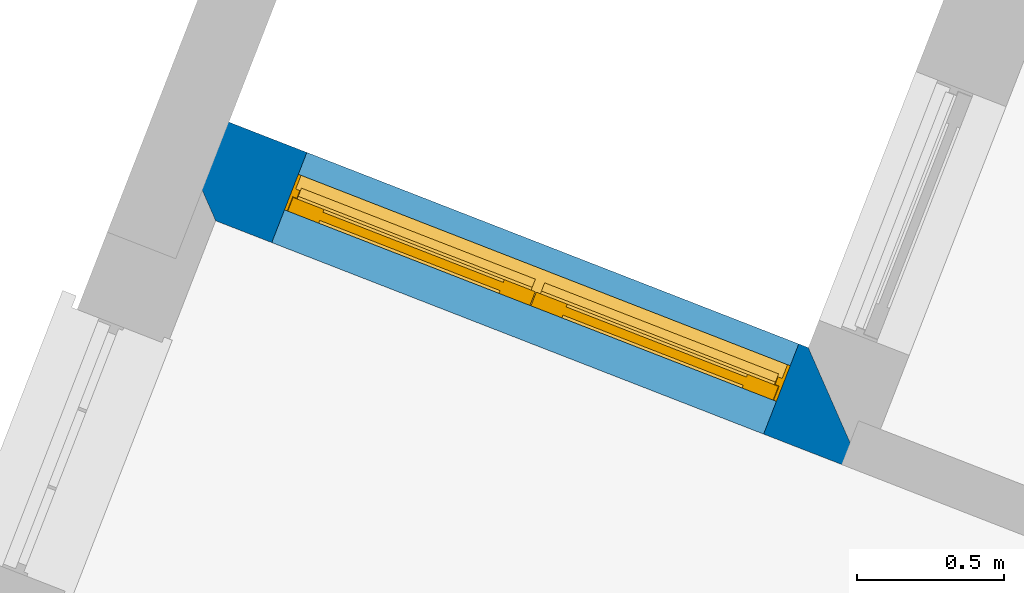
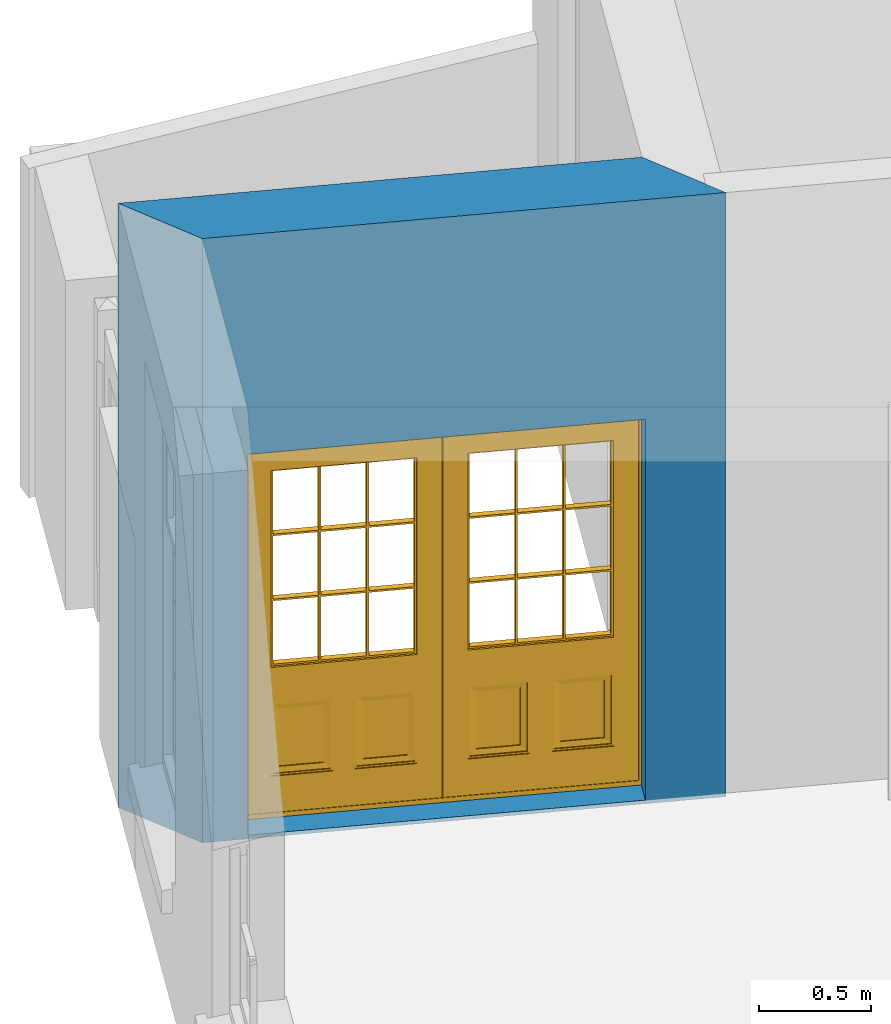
# One storey, part 4 of 6: 1 door, 1 wall, 1 opening.
"""IFC4 building model written with IfcOpenShell, lengths in metres."""

from ifc_helpers import new_model, si_unit, frame, origin, origin_with_axes, place, context, subcontext, project, spatial, polyline, outline, extrude, faceted_brep, source, transform, mapped, material, layer, layer_set, layer_usage, type_object, type_shapes, element, fill, save


model = new_model("IFC4")

# Units and contexts
model_context = context("Model", 3, world=origin_with_axes())
body_context = subcontext(model_context, "Body", "Model", "MODEL_VIEW")
ifc_project = project(units=[si_unit("PLANEANGLEUNIT", "RADIAN"), si_unit("MASSUNIT", "GRAM", prefix="KILO"), si_unit("FORCEUNIT", "NEWTON", prefix="KILO"), si_unit("LENGTHUNIT", "METRE"), si_unit("AREAUNIT", "SQUARE_METRE"), si_unit("VOLUMEUNIT", "CUBIC_METRE")], contexts=[model_context, model_context])

# Sites, building, storey
site_1_placement = place(None, origin_with_axes())
site_1 = spatial("IfcSite", under=ifc_project, at=site_1_placement, Name="Tamar")
site_2_placement = place(site_1_placement, origin_with_axes())
site_2 = spatial("IfcSite", under=site_1, at=site_2_placement, Name="Site plot-9", CompositionType="ELEMENT")
building_placement = place(None, origin_with_axes())
building = spatial("IfcBuilding", under=site_2, at=building_placement, Name="Building plot-9", CompositionType="ELEMENT")
storey_placement = place(None, frame((0.0, 0.0, 26.8), z_axis=(0.0, 0.0, 1.0), x_axis=(1.0, 0.0, 0.0)))
storey = spatial("IfcBuildingStorey", under=building, at=storey_placement, Name="plot-9 0", CompositionType="ELEMENT", Elevation=26.8)

# Wall, opening, door
ifc_material = material(Name="Masonry")
ifc_layer = layer(ifc_material, 0.33, ventilated=False)
ifc_layer_set = layer_set([ifc_layer], Name="exterior_0.08_0.25")
ifc_layer_usage = layer_usage(ifc_layer_set, "AXIS2", "POSITIVE", -0.25)
wall_type = type_object("IfcWallType", Name="exterior_0.08_0.25", PredefinedType="SOLIDWALL", material=ifc_layer_set)
wall_placement = place(storey_placement, frame((228.059238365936, 320.034964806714, 0.0), z_axis=(0.0, 0.0, 1.0), x_axis=(-0.931863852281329, 0.362808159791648, 0.0)))
wall = element("IfcWall", 1, at=wall_placement, inside=storey, type_object=wall_type, material=ifc_layer_usage, Name="exterior", context=body_context, shape_type="SweptSolid", body=[
    extrude(outline(polyline([(-0.080000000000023, 0.0800000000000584), (0.250000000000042, -0.249999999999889), (2.62048137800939, -0.250000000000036), (2.29048137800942, 0.0800000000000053), (-0.080000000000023, 0.0800000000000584)])), origin_with_axes(), (0.0, 0.0, 1.0), 3.3),
])
opening_placement = place(wall_placement, frame((0.285240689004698, 0.0, 0.0199999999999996)))
opening = element("IfcOpeningElement", 2, at=opening_placement, cuts=wall, Name="My Opening", ObjectType="Opening", context=body_context, shape_type="SweptSolid", body=[
    extrude(outline(polyline([(0.0, -0.269999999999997), (1.80000000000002, -0.270000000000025), (1.80000000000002, 1.09999999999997), (4.44089209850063e-16, 1.1), (0.0, -0.269999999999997)])), origin_with_axes(), (0.0, 0.0, 1.0), 2.08),
])
door_type = type_object("IfcDoorType", Name="door_panelled_double", OperationType="SINGLE_SWING_LEFT", PredefinedType="NOTDEFINED")
shared_shape = source(origin(), body_context, "Body", "Brep", [
    faceted_brep([(0.545, 0.195, 0.265), (0.745, 0.195, 0.265), (0.745, 0.2, 0.265), (0.545, 0.2, 0.265), (0.745, 0.2, 0.58), (0.545, 0.2, 0.58), (0.545, 0.195, 0.58), (0.515, 0.19, 0.235), (0.775, 0.19, 0.235), (0.745, 0.195, 0.58), (0.515, 0.19, 0.61), (0.515, 0.185, 0.235), (0.775, 0.185, 0.235), (0.775, 0.19, 0.61), (0.515, 0.185, 0.61), (0.785, 0.185, 0.225), (0.505, 0.185, 0.225), (0.775, 0.185, 0.61), (0.505, 0.185, 0.62), (0.785, 0.185, 0.62), (0.505, 0.18, 0.225), (0.785, 0.18, 0.225), (0.505, 0.18, 0.62), (0.785, 0.18, 0.62), (0.883, 0.18, 0.075), (0.898, 0.18, 0.075), (0.405, 0.18, 0.62), (0.405, 0.18, 0.225), (0.027, 0.18, 0.075), (0.785, 0.18, 0.82), (0.125, 0.18, 0.82), (0.405, 0.185, 0.62), (0.405, 0.185, 0.225), (0.898, 0.18, 2.068), (0.027, 0.17, 0.075), (0.883, 0.17, 0.075), (0.125, 0.18, 0.225), (0.012, 0.18, 0.075), (0.785, 0.19, 0.82), (0.125, 0.19, 0.82), (0.125, 0.18, 0.62), (0.125, 0.185, 0.62), (0.395, 0.185, 0.61), (0.395, 0.185, 0.235), (0.125, 0.185, 0.225), (0.785, 0.18, 1.895), (0.027, 0.14, 0.045), (0.883, 0.14, 0.045), (0.558333, 0.19, 0.83), (0.351667, 0.19, 0.83), (0.125, 0.18, 1.895), (0.125, 0.19, 1.895), (0.785, 0.19, 1.895), (0.012, 0.18, 2.068), (0.135, 0.185, 0.61), (0.395, 0.19, 0.61), (0.395, 0.19, 0.235), (0.135, 0.185, 0.235), (0.027, 0.14, 0.027), (0.883, 0.14, 0.027), (0.568333, 0.19, 0.83), (0.558333, 0.22, 0.83), (0.351667, 0.22, 0.83), (0.341667, 0.19, 0.83), (0.135, 0.19, 1.185), (0.135, 0.19, 1.53), (0.775, 0.19, 1.53), (0.775, 0.19, 1.185), (0.135, 0.19, 0.61), (0.365, 0.195, 0.58), (0.365, 0.195, 0.265), (0.135, 0.19, 0.235), (0.568333, 0.19, 1.175), (0.558333, 0.19, 1.175), (0.775, 0.19, 0.83), (0.558333, 0.22, 1.175), (0.785, 0.22, 0.82), (0.125, 0.22, 0.82), (0.351667, 0.22, 1.175), (0.351667, 0.19, 1.175), (0.341667, 0.19, 1.175), (0.135, 0.19, 0.83), (0.135, 0.19, 1.175), (0.135, 0.22, 1.185), (0.135, 0.22, 1.53), (0.135, 0.19, 1.54), (0.351667, 0.19, 1.885), (0.558333, 0.19, 1.885), (0.775, 0.22, 1.53), (0.775, 0.22, 1.185), (0.775, 0.19, 1.175), (0.775, 0.19, 1.54), (0.165, 0.195, 0.58), (0.365, 0.2, 0.58), (0.365, 0.2, 0.265), (0.165, 0.195, 0.265), (0.568333, 0.22, 0.83), (0.568333, 0.22, 1.175), (0.568333, 0.19, 1.185), (0.558333, 0.19, 1.185), (0.775, 0.22, 0.83), (0.785, 0.23, 0.82), (0.125, 0.23, 0.82), (0.341667, 0.22, 0.83), (0.341667, 0.22, 1.175), (0.351667, 0.19, 1.185), (0.341667, 0.19, 1.185), (0.135, 0.22, 0.83), (0.341667, 0.22, 1.185), (0.125, 0.22, 1.895), (0.341667, 0.22, 1.53), (0.341667, 0.19, 1.53), (0.135, 0.19, 1.885), (0.341667, 0.19, 1.54), (0.341667, 0.19, 1.885), (0.558333, 0.22, 1.885), (0.351667, 0.22, 1.885), (0.568333, 0.19, 1.885), (0.785, 0.22, 1.895), (0.568333, 0.22, 1.185), (0.568333, 0.19, 1.53), (0.568333, 0.22, 1.53), (0.568333, 0.19, 1.54), (0.775, 0.19, 1.885), (0.165, 0.2, 0.58), (0.165, 0.2, 0.265), (0.775, 0.22, 1.175), (0.558333, 0.19, 1.53), (0.351667, 0.22, 1.185), (0.558333, 0.22, 1.185), (0.505, 0.23, 0.62), (0.405, 0.23, 0.62), (0.125, 0.23, 1.895), (0.785, 0.23, 1.895), (0.351667, 0.19, 1.53), (0.135, 0.22, 1.175), (0.135, 0.22, 1.54), (0.341667, 0.22, 1.54), (0.135, 0.22, 1.885), (0.351667, 0.19, 1.54), (0.558333, 0.22, 1.54), (0.558333, 0.19, 1.54), (0.351667, 0.22, 1.54), (0.775, 0.22, 1.54), (0.568333, 0.22, 1.54), (0.775, 0.22, 1.885), (0.558333, 0.22, 1.53), (0.405, 0.23, 0.225), (0.505, 0.23, 0.225), (0.125, 0.23, 0.62), (0.785, 0.23, 0.62), (0.012, 0.23, 2.068), (0.898, 0.23, 2.068), (0.351667, 0.22, 1.53), (0.341667, 0.22, 1.885), (0.568333, 0.22, 1.885), (0.405, 0.225, 0.225), (0.405, 0.225, 0.62), (0.505, 0.225, 0.62), (0.505, 0.225, 0.225), (0.898, 0.23, 0.027), (0.012, 0.23, 0.027), (0.125, 0.225, 0.62), (0.785, 0.225, 0.62), (0.395, 0.225, 0.235), (0.395, 0.225, 0.61), (0.125, 0.23, 0.225), (0.125, 0.225, 0.225), (0.515, 0.225, 0.61), (0.515, 0.225, 0.235), (0.785, 0.23, 0.225), (0.785, 0.225, 0.225), (0.135, 0.225, 0.61), (0.775, 0.225, 0.61), (0.135, 0.225, 0.235), (0.395, 0.22, 0.235), (0.395, 0.22, 0.61), (0.515, 0.22, 0.61), (0.515, 0.22, 0.235), (0.775, 0.225, 0.235), (0.135, 0.22, 0.61), (0.775, 0.22, 0.61), (0.135, 0.22, 0.235), (0.365, 0.215, 0.265), (0.365, 0.215, 0.58), (0.545, 0.215, 0.58), (0.545, 0.215, 0.265), (0.775, 0.22, 0.235), (0.165, 0.215, 0.58), (0.745, 0.215, 0.58), (0.165, 0.215, 0.265), (0.365, 0.21, 0.58), (0.365, 0.21, 0.265), (0.545, 0.21, 0.58), (0.545, 0.21, 0.265), (0.745, 0.215, 0.265), (0.165, 0.21, 0.58), (0.745, 0.21, 0.58), (0.165, 0.21, 0.265), (0.745, 0.21, 0.265), (1.775, 0.178, 0.025), (0.025, 0.178, 0.025), (0.025, 0.15, 0.025), (1.775, 0.15, 0.025), (1.79, 0.23, 0.025), (0.01, 0.23, 0.025), (1.79, 0.178, 0.025), (1.8, 0.23, 0.0), (0.0, 0.23, 0.0), (0.01, 0.178, 0.025), (1.79, 0.178, 2.07), (1.79, 0.23, 2.07), (1.775, 0.178, 2.055), (1.8, 0.23, 2.08), (0.01, 0.23, 2.07), (0.0, 0.23, 2.08), (0.01, 0.178, 2.07), (0.025, 0.178, 2.055), (0.0, 0.1, 2.08), (1.8, 0.1, 2.08), (0.01, 0.1, 2.07), (1.79, 0.1, 2.07), (0.01, 0.15, 2.07), (1.79, 0.15, 2.07), (0.0, 0.1, 0.0), (1.8, 0.1, 0.0), (0.01, 0.1, 0.025), (1.79, 0.1, 0.025), (0.01, 0.15, 0.025), (0.025, 0.15, 2.055), (1.79, 0.15, 0.025), (1.775, 0.15, 2.055), (0.898, 0.18, 0.027), (0.012, 0.18, 0.027), (0.883, 0.18, 0.027), (0.027, 0.18, 0.027), (1.435, 0.195, 0.265), (1.635, 0.195, 0.265), (1.635, 0.2, 0.265), (1.435, 0.2, 0.265), (1.635, 0.2, 0.58), (1.435, 0.2, 0.58), (1.435, 0.195, 0.58), (1.405, 0.19, 0.235), (1.665, 0.19, 0.235), (1.635, 0.195, 0.58), (1.405, 0.19, 0.61), (1.405, 0.185, 0.235), (1.665, 0.185, 0.235), (1.665, 0.19, 0.61), (1.405, 0.185, 0.61), (1.675, 0.185, 0.225), (1.395, 0.185, 0.225), (1.665, 0.185, 0.61), (1.395, 0.185, 0.62), (1.675, 0.185, 0.62), (1.395, 0.18, 0.225), (1.675, 0.18, 0.225), (1.395, 0.18, 0.62), (1.675, 0.18, 0.62), (1.773, 0.18, 0.075), (1.788, 0.18, 0.075), (1.295, 0.18, 0.62), (1.295, 0.18, 0.225), (0.917, 0.18, 0.075), (1.675, 0.18, 0.82), (1.015, 0.18, 0.82), (1.295, 0.185, 0.62), (1.295, 0.185, 0.225), (1.788, 0.18, 2.068), (0.917, 0.17, 0.075), (1.773, 0.17, 0.075), (1.015, 0.18, 0.225), (0.902, 0.18, 0.075), (1.675, 0.19, 0.82), (1.015, 0.19, 0.82), (1.015, 0.18, 0.62), (1.015, 0.185, 0.62), (1.285, 0.185, 0.61), (1.285, 0.185, 0.235), (1.015, 0.185, 0.225), (1.675, 0.18, 1.895), (0.917, 0.14, 0.045), (1.773, 0.14, 0.045), (1.448333, 0.19, 0.83), (1.241667, 0.19, 0.83), (1.015, 0.18, 1.895), (1.015, 0.19, 1.895), (1.675, 0.19, 1.895), (0.902, 0.18, 2.068), (1.025, 0.185, 0.61), (1.285, 0.19, 0.61), (1.285, 0.19, 0.235), (1.025, 0.185, 0.235), (0.917, 0.14, 0.027), (1.773, 0.14, 0.027), (1.458333, 0.19, 0.83), (1.448333, 0.22, 0.83), (1.241667, 0.22, 0.83), (1.231667, 0.19, 0.83), (1.025, 0.19, 1.185), (1.025, 0.19, 1.53), (1.665, 0.19, 1.53), (1.665, 0.19, 1.185), (1.025, 0.19, 0.61), (1.255, 0.195, 0.58), (1.255, 0.195, 0.265), (1.025, 0.19, 0.235), (1.458333, 0.19, 1.175), (1.448333, 0.19, 1.175), (1.665, 0.19, 0.83), (1.448333, 0.22, 1.175), (1.675, 0.22, 0.82), (1.015, 0.22, 0.82), (1.241667, 0.22, 1.175), (1.241667, 0.19, 1.175), (1.231667, 0.19, 1.175), (1.025, 0.19, 0.83), (1.025, 0.19, 1.175), (1.025, 0.22, 1.185), (1.025, 0.22, 1.53), (1.025, 0.19, 1.54), (1.241667, 0.19, 1.885), (1.448333, 0.19, 1.885), (1.665, 0.22, 1.53), (1.665, 0.22, 1.185), (1.665, 0.19, 1.175), (1.665, 0.19, 1.54), (1.055, 0.195, 0.58), (1.255, 0.2, 0.58), (1.255, 0.2, 0.265), (1.055, 0.195, 0.265), (1.458333, 0.22, 0.83), (1.458333, 0.22, 1.175), (1.458333, 0.19, 1.185), (1.448333, 0.19, 1.185), (1.665, 0.22, 0.83), (1.675, 0.23, 0.82), (1.015, 0.23, 0.82), (1.231667, 0.22, 0.83), (1.231667, 0.22, 1.175), (1.241667, 0.19, 1.185), (1.231667, 0.19, 1.185), (1.025, 0.22, 0.83), (1.231667, 0.22, 1.185), (1.015, 0.22, 1.895), (1.231667, 0.22, 1.53), (1.231667, 0.19, 1.53), (1.025, 0.19, 1.885), (1.231667, 0.19, 1.54), (1.231667, 0.19, 1.885), (1.448333, 0.22, 1.885), (1.241667, 0.22, 1.885), (1.458333, 0.19, 1.885), (1.675, 0.22, 1.895), (1.458333, 0.22, 1.185), (1.458333, 0.19, 1.53), (1.458333, 0.22, 1.53), (1.458333, 0.19, 1.54), (1.665, 0.19, 1.885), (1.055, 0.2, 0.58), (1.055, 0.2, 0.265), (1.665, 0.22, 1.175), (1.448333, 0.19, 1.53), (1.241667, 0.22, 1.185), (1.448333, 0.22, 1.185), (1.395, 0.23, 0.62), (1.295, 0.23, 0.62), (1.015, 0.23, 1.895), (1.675, 0.23, 1.895), (1.241667, 0.19, 1.53), (1.025, 0.22, 1.175), (1.025, 0.22, 1.54), (1.231667, 0.22, 1.54), (1.025, 0.22, 1.885), (1.241667, 0.19, 1.54), (1.448333, 0.22, 1.54), (1.448333, 0.19, 1.54), (1.241667, 0.22, 1.54), (1.665, 0.22, 1.54), (1.458333, 0.22, 1.54), (1.665, 0.22, 1.885), (1.448333, 0.22, 1.53), (1.295, 0.23, 0.225), (1.395, 0.23, 0.225), (1.015, 0.23, 0.62), (1.675, 0.23, 0.62), (0.902, 0.23, 2.068), (1.788, 0.23, 2.068), (1.241667, 0.22, 1.53), (1.231667, 0.22, 1.885), (1.458333, 0.22, 1.885), (1.295, 0.225, 0.225), (1.295, 0.225, 0.62), (1.395, 0.225, 0.62), (1.395, 0.225, 0.225), (1.788, 0.23, 0.027), (0.902, 0.23, 0.027), (1.015, 0.225, 0.62), (1.675, 0.225, 0.62), (1.285, 0.225, 0.235), (1.285, 0.225, 0.61), (1.015, 0.23, 0.225), (1.015, 0.225, 0.225), (1.405, 0.225, 0.61), (1.405, 0.225, 0.235), (1.675, 0.23, 0.225), (1.675, 0.225, 0.225), (1.025, 0.225, 0.61), (1.665, 0.225, 0.61), (1.025, 0.225, 0.235), (1.285, 0.22, 0.235), (1.285, 0.22, 0.61), (1.405, 0.22, 0.61), (1.405, 0.22, 0.235), (1.665, 0.225, 0.235), (1.025, 0.22, 0.61), (1.665, 0.22, 0.61), (1.025, 0.22, 0.235), (1.255, 0.215, 0.265), (1.255, 0.215, 0.58), (1.435, 0.215, 0.58), (1.435, 0.215, 0.265), (1.665, 0.22, 0.235), (1.055, 0.215, 0.58), (1.635, 0.215, 0.58), (1.055, 0.215, 0.265), (1.255, 0.21, 0.58), (1.255, 0.21, 0.265), (1.435, 0.21, 0.58), (1.435, 0.21, 0.265), (1.635, 0.215, 0.265), (1.055, 0.21, 0.58), (1.635, 0.21, 0.58), (1.055, 0.21, 0.265), (1.635, 0.21, 0.265), (1.788, 0.18, 0.027), (0.902, 0.18, 0.027), (1.773, 0.18, 0.027), (0.917, 0.18, 0.027)], [[[0, 1, 2, 3]], [[2, 4, 5, 3]], [[0, 3, 5, 6]], [[1, 0, 7, 8]], [[9, 4, 2, 1]], [[9, 6, 5, 4]], [[0, 6, 10, 7]], [[8, 7, 11, 12]], [[8, 13, 9, 1]], [[13, 10, 6, 9]], [[7, 10, 14, 11]], [[15, 12, 11, 16]], [[12, 17, 13, 8]], [[17, 14, 10, 13]], [[18, 16, 11, 14]], [[15, 19, 17, 12]], [[15, 16, 20, 21]], [[14, 17, 19, 18]], [[16, 18, 22, 20]], [[21, 23, 19, 15]], [[24, 25, 21, 20]], [[23, 22, 18, 19]], [[20, 22, 26, 27]], [[23, 21, 25]], [[28, 24, 20, 27]], [[22, 23, 29]], [[29, 30, 26, 22]], [[27, 26, 31, 32]], [[23, 25, 33, 29]], [[34, 35, 24, 28]], [[28, 27, 36, 37]], [[38, 39, 30, 29]], [[26, 30, 40]], [[26, 40, 41, 31]], [[42, 43, 32, 31]], [[32, 44, 36, 27]], [[33, 45, 29]], [[46, 47, 35, 34]], [[36, 40, 37]], [[39, 38, 48, 49]], [[50, 30, 39, 51]], [[29, 45, 52, 38]], [[53, 37, 40, 30]], [[44, 41, 40, 36]], [[31, 41, 54, 42]], [[43, 42, 55, 56]], [[57, 44, 32, 43]], [[50, 45, 33, 53]], [[47, 46, 58, 59]], [[60, 48, 38]], [[49, 48, 61, 62]], [[49, 63, 39]], [[50, 53, 30]], [[51, 39, 64, 65]], [[45, 50, 51, 52]], [[66, 67, 38, 52]], [[57, 54, 41, 44]], [[42, 54, 68, 55]], [[56, 55, 69, 70]], [[56, 71, 57, 43]], [[60, 72, 73, 48]], [[60, 38, 74]], [[48, 73, 75, 61]], [[76, 77, 62, 61]], [[62, 78, 79, 49]], [[49, 79, 80, 63]], [[63, 81, 39]], [[82, 64, 39]], [[65, 64, 83, 84]], [[85, 51, 65]], [[52, 51, 86, 87]], [[88, 89, 67, 66]], [[90, 38, 67]], [[91, 66, 52]], [[71, 68, 54, 57]], [[55, 68, 92, 69]], [[69, 93, 94, 70]], [[70, 95, 71, 56]], [[96, 97, 72, 60]], [[73, 72, 98, 99]], [[74, 38, 90]], [[100, 96, 60, 74]], [[75, 73, 79, 78]], [[61, 75, 97, 96]], [[101, 102, 77, 76]], [[77, 103, 62]], [[96, 76, 61]], [[103, 104, 78, 62]], [[80, 79, 105, 106]], [[63, 80, 104, 103]], [[81, 63, 103, 107]], [[81, 82, 39]], [[106, 64, 82, 80]], [[106, 108, 83, 64]], [[84, 83, 77, 109]], [[110, 111, 65, 84]], [[112, 51, 85]], [[113, 85, 65, 111]], [[114, 86, 51]], [[115, 87, 86, 116]], [[117, 52, 87]], [[118, 76, 89, 88]], [[119, 98, 67, 89]], [[120, 121, 88, 66]], [[67, 98, 72, 90]], [[91, 122, 120, 66]], [[91, 52, 123]], [[95, 92, 68, 71]], [[69, 92, 124, 93]], [[94, 93, 124, 125]], [[94, 125, 95, 70]], [[72, 97, 126, 90]], [[127, 99, 98, 120]], [[99, 105, 79, 73]], [[74, 90, 126, 100]], [[96, 100, 76]], [[128, 129, 75, 78]], [[97, 75, 129, 119]], [[130, 131, 102, 101]], [[109, 77, 102, 132]], [[133, 101, 76, 118]], [[77, 107, 103]], [[78, 104, 108, 128]], [[111, 106, 105, 134]], [[104, 80, 82, 135]], [[107, 135, 82, 81]], [[110, 108, 106, 111]], [[104, 135, 83, 108]], [[83, 135, 77]], [[136, 84, 109]], [[110, 84, 136, 137]], [[114, 51, 112]], [[85, 136, 138, 112]], [[113, 137, 136, 85]], [[111, 134, 139, 113]], [[86, 114, 113, 139]], [[140, 141, 87, 115]], [[139, 142, 116, 86]], [[109, 118, 115, 116]], [[117, 123, 52]], [[117, 87, 141, 122]], [[126, 89, 76]], [[143, 118, 88]], [[120, 98, 119, 121]], [[119, 89, 126, 97]], [[144, 143, 88, 121]], [[144, 122, 91, 143]], [[127, 120, 122, 141]], [[143, 91, 123, 145]], [[124, 92, 95, 125]], [[146, 129, 99, 127]], [[99, 129, 128, 105]], [[100, 126, 76]], [[121, 119, 129, 146]], [[147, 131, 130, 148]], [[131, 149, 102]], [[130, 101, 150]], [[102, 151, 132]], [[118, 109, 132, 133]], [[101, 133, 152]], [[107, 77, 135]], [[153, 128, 108, 110]], [[134, 105, 128, 153]], [[109, 138, 136]], [[153, 110, 137, 142]], [[154, 114, 112, 138]], [[137, 113, 114, 154]], [[141, 139, 134, 127]], [[141, 140, 142, 139]], [[144, 140, 115, 155]], [[142, 137, 154, 116]], [[155, 115, 118]], [[116, 154, 109]], [[117, 155, 145, 123]], [[122, 144, 155, 117]], [[143, 145, 118]], [[121, 146, 140, 144]], [[146, 127, 134, 153]], [[156, 157, 131, 147]], [[148, 130, 158, 159]], [[148, 160, 161, 147]], [[157, 162, 149, 131]], [[161, 151, 102, 149]], [[101, 152, 160, 150]], [[163, 158, 130, 150]], [[151, 152, 133, 132]], [[154, 138, 109]], [[142, 140, 146, 153]], [[145, 155, 118]], [[157, 156, 164, 165]], [[147, 166, 167, 156]], [[168, 169, 159, 158]], [[170, 148, 159, 171]], [[148, 170, 160]], [[166, 147, 161]], [[172, 162, 157, 165]], [[166, 149, 162, 167]], [[166, 161, 149]], [[150, 160, 170]], [[163, 173, 168, 158]], [[171, 163, 150, 170]], [[174, 164, 156, 167]], [[175, 176, 165, 164]], [[169, 168, 177, 178]], [[171, 159, 169, 179]], [[167, 162, 172, 174]], [[176, 180, 172, 165]], [[179, 173, 163, 171]], [[181, 177, 168, 173]], [[164, 174, 182, 175]], [[183, 184, 176, 175]], [[178, 177, 185, 186]], [[179, 169, 178, 187]], [[174, 172, 180, 182]], [[184, 188, 180, 176]], [[187, 181, 173, 179]], [[189, 185, 177, 181]], [[175, 182, 190, 183]], [[191, 184, 183, 192]], [[185, 193, 194, 186]], [[187, 178, 186, 195]], [[182, 180, 188, 190]], [[191, 196, 188, 184]], [[195, 189, 181, 187]], [[197, 193, 185, 189]], [[183, 190, 198, 192]], [[198, 196, 191, 192]], [[194, 193, 197, 199]], [[195, 186, 194, 199]], [[188, 196, 198, 190]], [[197, 189, 195, 199]], [[200, 201, 202, 203]], [[201, 200, 204, 205]], [[206, 204, 200]], [[204, 207, 208, 205]], [[209, 201, 205]], [[210, 211, 204, 206]], [[206, 200, 212, 210]], [[211, 213, 207, 204]], [[214, 205, 208, 215]], [[216, 217, 201, 209]], [[205, 214, 216, 209]], [[216, 214, 211, 210]], [[210, 212, 217, 216]], [[214, 215, 213, 211]], [[218, 219, 213, 215]], [[219, 218, 220, 221]], [[221, 220, 222, 223]], [[215, 208, 224, 218]], [[225, 224, 208, 207]], [[224, 226, 220, 218]], [[224, 225, 227, 226]], [[219, 225, 207, 213]], [[228, 222, 220, 226]], [[219, 221, 227, 225]], [[226, 227, 203, 202]], [[202, 229, 222, 228]], [[228, 226, 202]], [[227, 221, 223, 230]], [[230, 203, 227]], [[217, 229, 202, 201]], [[231, 223, 222, 229]], [[230, 223, 231, 203]], [[231, 229, 217, 212]], [[212, 200, 203, 231]], [[33, 152, 151, 53]], [[25, 160, 152, 33]], [[161, 37, 53, 151]], [[232, 160, 25]], [[161, 233, 37]], [[160, 232, 234]], [[24, 234, 232, 25]], [[233, 161, 235]], [[37, 233, 235, 28]], [[161, 160, 234, 235]], [[35, 47, 234, 24]], [[28, 235, 46, 34]], [[58, 235, 234, 59]], [[59, 234, 47]], [[58, 46, 235]], [[236, 237, 238, 239]], [[238, 240, 241, 239]], [[236, 239, 241, 242]], [[237, 236, 243, 244]], [[245, 240, 238, 237]], [[245, 242, 241, 240]], [[236, 242, 246, 243]], [[244, 243, 247, 248]], [[244, 249, 245, 237]], [[249, 246, 242, 245]], [[243, 246, 250, 247]], [[251, 248, 247, 252]], [[248, 253, 249, 244]], [[253, 250, 246, 249]], [[254, 252, 247, 250]], [[251, 255, 253, 248]], [[251, 252, 256, 257]], [[250, 253, 255, 254]], [[252, 254, 258, 256]], [[257, 259, 255, 251]], [[260, 261, 257, 256]], [[259, 258, 254, 255]], [[256, 258, 262, 263]], [[259, 257, 261]], [[264, 260, 256, 263]], [[258, 259, 265]], [[265, 266, 262, 258]], [[263, 262, 267, 268]], [[259, 261, 269, 265]], [[270, 271, 260, 264]], [[264, 263, 272, 273]], [[274, 275, 266, 265]], [[262, 266, 276]], [[262, 276, 277, 267]], [[278, 279, 268, 267]], [[268, 280, 272, 263]], [[269, 281, 265]], [[282, 283, 271, 270]], [[272, 276, 273]], [[275, 274, 284, 285]], [[286, 266, 275, 287]], [[265, 281, 288, 274]], [[289, 273, 276, 266]], [[280, 277, 276, 272]], [[267, 277, 290, 278]], [[279, 278, 291, 292]], [[293, 280, 268, 279]], [[286, 281, 269, 289]], [[283, 282, 294, 295]], [[296, 284, 274]], [[285, 284, 297, 298]], [[285, 299, 275]], [[286, 289, 266]], [[287, 275, 300, 301]], [[281, 286, 287, 288]], [[302, 303, 274, 288]], [[293, 290, 277, 280]], [[278, 290, 304, 291]], [[292, 291, 305, 306]], [[292, 307, 293, 279]], [[296, 308, 309, 284]], [[296, 274, 310]], [[284, 309, 311, 297]], [[312, 313, 298, 297]], [[298, 314, 315, 285]], [[285, 315, 316, 299]], [[299, 317, 275]], [[318, 300, 275]], [[301, 300, 319, 320]], [[321, 287, 301]], [[288, 287, 322, 323]], [[324, 325, 303, 302]], [[326, 274, 303]], [[327, 302, 288]], [[307, 304, 290, 293]], [[291, 304, 328, 305]], [[305, 329, 330, 306]], [[306, 331, 307, 292]], [[332, 333, 308, 296]], [[309, 308, 334, 335]], [[310, 274, 326]], [[336, 332, 296, 310]], [[311, 309, 315, 314]], [[297, 311, 333, 332]], [[337, 338, 313, 312]], [[313, 339, 298]], [[332, 312, 297]], [[339, 340, 314, 298]], [[316, 315, 341, 342]], [[299, 316, 340, 339]], [[317, 299, 339, 343]], [[317, 318, 275]], [[342, 300, 318, 316]], [[342, 344, 319, 300]], [[320, 319, 313, 345]], [[346, 347, 301, 320]], [[348, 287, 321]], [[349, 321, 301, 347]], [[350, 322, 287]], [[351, 323, 322, 352]], [[353, 288, 323]], [[354, 312, 325, 324]], [[355, 334, 303, 325]], [[356, 357, 324, 302]], [[303, 334, 308, 326]], [[327, 358, 356, 302]], [[327, 288, 359]], [[331, 328, 304, 307]], [[305, 328, 360, 329]], [[330, 329, 360, 361]], [[330, 361, 331, 306]], [[308, 333, 362, 326]], [[363, 335, 334, 356]], [[335, 341, 315, 309]], [[310, 326, 362, 336]], [[332, 336, 312]], [[364, 365, 311, 314]], [[333, 311, 365, 355]], [[366, 367, 338, 337]], [[345, 313, 338, 368]], [[369, 337, 312, 354]], [[313, 343, 339]], [[314, 340, 344, 364]], [[347, 342, 341, 370]], [[340, 316, 318, 371]], [[343, 371, 318, 317]], [[346, 344, 342, 347]], [[340, 371, 319, 344]], [[319, 371, 313]], [[372, 320, 345]], [[346, 320, 372, 373]], [[350, 287, 348]], [[321, 372, 374, 348]], [[349, 373, 372, 321]], [[347, 370, 375, 349]], [[322, 350, 349, 375]], [[376, 377, 323, 351]], [[375, 378, 352, 322]], [[345, 354, 351, 352]], [[353, 359, 288]], [[353, 323, 377, 358]], [[362, 325, 312]], [[379, 354, 324]], [[356, 334, 355, 357]], [[355, 325, 362, 333]], [[380, 379, 324, 357]], [[380, 358, 327, 379]], [[363, 356, 358, 377]], [[379, 327, 359, 381]], [[360, 328, 331, 361]], [[382, 365, 335, 363]], [[335, 365, 364, 341]], [[336, 362, 312]], [[357, 355, 365, 382]], [[383, 367, 366, 384]], [[367, 385, 338]], [[366, 337, 386]], [[338, 387, 368]], [[354, 345, 368, 369]], [[337, 369, 388]], [[343, 313, 371]], [[389, 364, 344, 346]], [[370, 341, 364, 389]], [[345, 374, 372]], [[389, 346, 373, 378]], [[390, 350, 348, 374]], [[373, 349, 350, 390]], [[377, 375, 370, 363]], [[377, 376, 378, 375]], [[380, 376, 351, 391]], [[378, 373, 390, 352]], [[391, 351, 354]], [[352, 390, 345]], [[353, 391, 381, 359]], [[358, 380, 391, 353]], [[379, 381, 354]], [[357, 382, 376, 380]], [[382, 363, 370, 389]], [[392, 393, 367, 383]], [[384, 366, 394, 395]], [[384, 396, 397, 383]], [[393, 398, 385, 367]], [[397, 387, 338, 385]], [[337, 388, 396, 386]], [[399, 394, 366, 386]], [[387, 388, 369, 368]], [[390, 374, 345]], [[378, 376, 382, 389]], [[381, 391, 354]], [[393, 392, 400, 401]], [[383, 402, 403, 392]], [[404, 405, 395, 394]], [[406, 384, 395, 407]], [[384, 406, 396]], [[402, 383, 397]], [[408, 398, 393, 401]], [[402, 385, 398, 403]], [[402, 397, 385]], [[386, 396, 406]], [[399, 409, 404, 394]], [[407, 399, 386, 406]], [[410, 400, 392, 403]], [[411, 412, 401, 400]], [[405, 404, 413, 414]], [[407, 395, 405, 415]], [[403, 398, 408, 410]], [[412, 416, 408, 401]], [[415, 409, 399, 407]], [[417, 413, 404, 409]], [[400, 410, 418, 411]], [[419, 420, 412, 411]], [[414, 413, 421, 422]], [[415, 405, 414, 423]], [[410, 408, 416, 418]], [[420, 424, 416, 412]], [[423, 417, 409, 415]], [[425, 421, 413, 417]], [[411, 418, 426, 419]], [[427, 420, 419, 428]], [[421, 429, 430, 422]], [[423, 414, 422, 431]], [[418, 416, 424, 426]], [[427, 432, 424, 420]], [[431, 425, 417, 423]], [[433, 429, 421, 425]], [[419, 426, 434, 428]], [[434, 432, 427, 428]], [[430, 429, 433, 435]], [[431, 422, 430, 435]], [[424, 432, 434, 426]], [[433, 425, 431, 435]], [[269, 388, 387, 289]], [[261, 396, 388, 269]], [[397, 273, 289, 387]], [[436, 396, 261]], [[397, 437, 273]], [[396, 436, 438]], [[260, 438, 436, 261]], [[437, 397, 439]], [[273, 437, 439, 264]], [[397, 396, 438, 439]], [[271, 283, 438, 260]], [[264, 439, 282, 270]], [[294, 439, 438, 295]], [[295, 438, 283]], [[294, 282, 439]]]),
])
type_shapes(door_type, [shared_shape])
door_placement = place(storey_placement, frame((227.891391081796, 320.390055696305, 0.0199999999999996), z_axis=(0.0, 0.0, 1.0), x_axis=(-1.6773549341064, 0.653054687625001, 0.0)))
door = element("IfcDoor", 3, at=door_placement, inside=storey, type_object=door_type, Name="living sahn door", OverallHeight=2.08, OverallWidth=1.8, context=body_context, shape_type="MappedRepresentation", body=[
    mapped(shared_shape, transform((0.0, 0.0, 0.0), scale=1.0)),
])
fill(opening, door)

save(model, "model.ifc")
